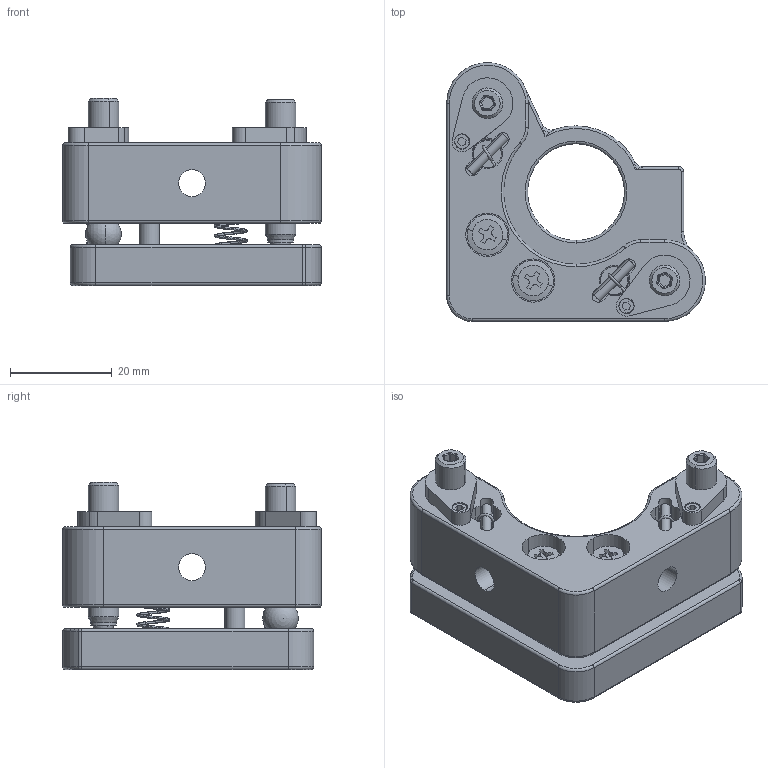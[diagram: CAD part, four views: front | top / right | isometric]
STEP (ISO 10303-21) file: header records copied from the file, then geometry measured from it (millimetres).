
FILE_DESCRIPTION (( 'STEP AP203' ), '1' );
FILE_NAME ('M-TNO-08R-FEC.STEP', '2020-07-07T08:29:07', ( '匠星' ), ( '' ), 'SwSTEP 2.0', 'SolidWorks 2019', '' );
FILE_SCHEMA (( 'CONFIG_CONTROL_DESIGN' ));
Length unit declared in the file: millimetre
Products named in the file (2): M-TNO-08R-FEC
Bounding box: 50.8 x 50.8 x 36.74 mm (x, y, z)
Surface area: 15837.5 mm2 (no closed solid volume)
Topology: 0 solids, 21 shells, 671 faces, 1579 edges, 961 vertices
Faces by surface type: cylinder 313, plane 190, torus 78, cone 56, sphere 22, bspline 12
Entity records: 24151 total; most frequent: CARTESIAN_POINT 8597, DIRECTION 3462, ORIENTED_EDGE 3070, EDGE_CURVE 1538, AXIS2_PLACEMENT_3D 1391, VERTEX_POINT 954, EDGE_LOOP 748, CIRCLE 730
